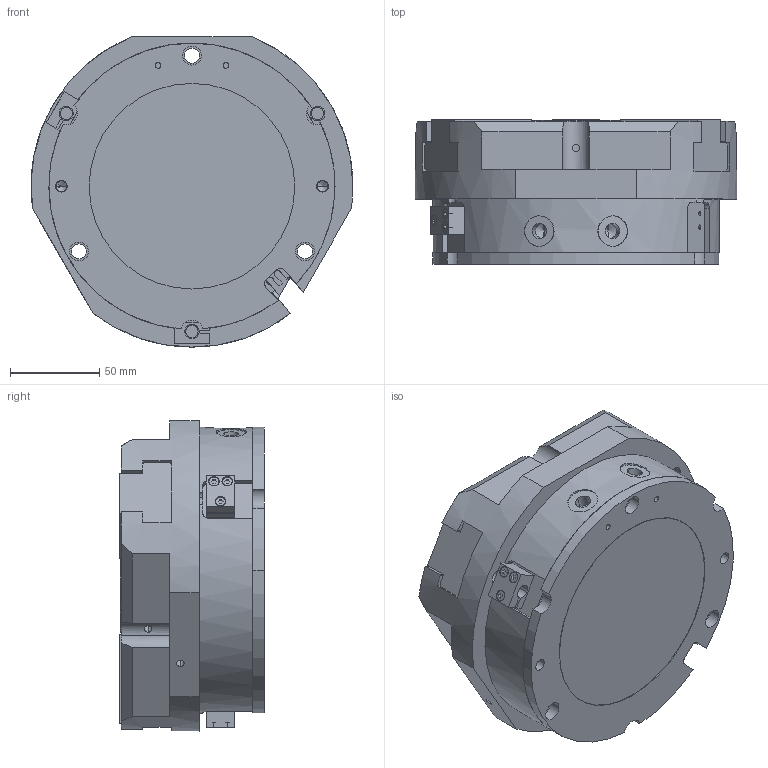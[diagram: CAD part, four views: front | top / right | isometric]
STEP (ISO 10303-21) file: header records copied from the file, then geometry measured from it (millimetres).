
FILE_DESCRIPTION (( 'STEP AP214' ), '1' );
FILE_NAME ('FCT-160A-1.STEP', '2020-07-07T10:57:41', ( '' ), ( '' ), 'SwSTEP 2.0', 'SolidWorks 2016', '' );
FILE_SCHEMA (( 'AUTOMOTIVE_DESIGN' ));
Length unit declared in the file: millimetre
Products named in the file (6): NAUO4; NAUO1; FCT-160A-1; NAUO6; NAUO7; NAUO2
Assembly tree (8 placements, depth 2):
  FCT-160A-1
    NAUO1
    NAUO2  x2
    NAUO4
    NAUO6
    NAUO7  x3
Bounding box: 179.98 x 81 x 173.5 mm (x, y, z)
Volume: 1644972.4 mm3; surface area: 215303.3 mm2
Topology: 8 solids, 8 shells, 496 faces, 1265 edges, 805 vertices
Faces by surface type: plane 239, cylinder 193, cone 64
Entity records: 12163 total; most frequent: CARTESIAN_POINT 2630, DIRECTION 2023, ORIENTED_EDGE 1874, EDGE_CURVE 937, AXIS2_PLACEMENT_3D 746, VERTEX_POINT 617, LINE 531, VECTOR 531
